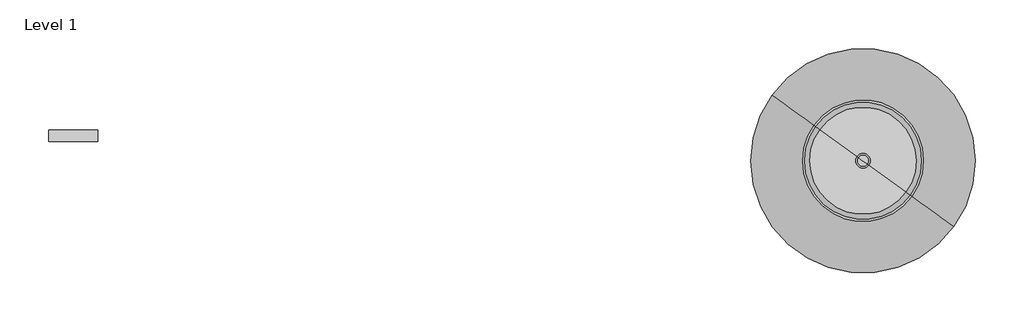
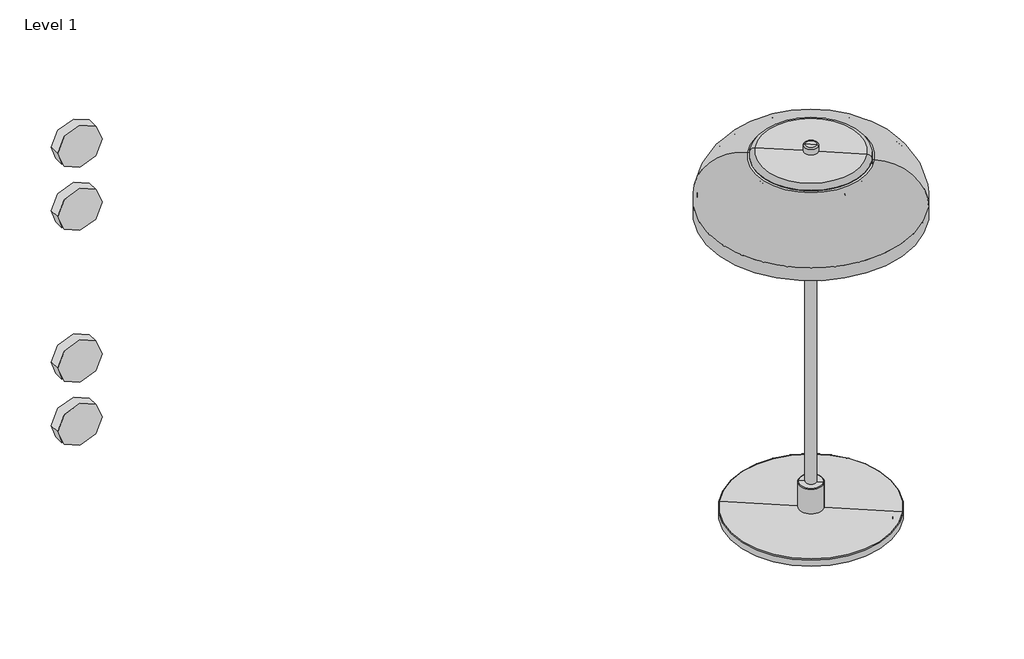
# One storey: 4 proxies, 1 light fixture.
"""IFC4 building model written with IfcOpenShell, lengths in millimetres."""

from ifc_helpers import new_model, si_unit, origin, place, context, project, spatial, transform, mapped, element, save
from components import materialmodel_materialmodel_d9ff14ed, light_fixture_5867d3f8

model = new_model("IFC4")

# Units and contexts
model_context = context("Model", 3, world=origin())
ifc_project = project(units=[si_unit("LENGTHUNIT", "METRE", prefix="MILLI")], contexts=[model_context])

# Site, building, storey
site = spatial("IfcSite", under=ifc_project)
building = spatial("IfcBuilding", under=site)
storey = spatial("IfcBuildingStorey", under=building, Name="Level 1", Elevation=0.0)

# Proxies
placement = place(None, origin())
materialmodel_materialmodel_shape = materialmodel_materialmodel_d9ff14ed(model_context)
element("IfcBuildingElementProxy", 1, Name="MaterialModel : MaterialModel", ObjectType="MaterialModel : MaterialModel", at=placement, inside=storey, context=model_context, shape_type="MappedRepresentation", body=[
    mapped(materialmodel_materialmodel_shape, transform((-14181.8938273, 5257.5863071, 552.2099026), x_axis=(1.0, 0.0, 0.0), y_axis=(0.0, 1.0, 0.0), z_axis=(0.0, 0.0, 1.0))),
])
element("IfcBuildingElementProxy", 2, Name="MaterialModel : MaterialModel", ObjectType="MaterialModel : MaterialModel", at=placement, inside=storey, context=model_context, shape_type="MappedRepresentation", body=[
    mapped(materialmodel_materialmodel_shape, transform((-14181.8938273, 5257.5863071, 477.2099026), x_axis=(1.0, 0.0, 0.0), y_axis=(0.0, 1.0, 0.0), z_axis=(0.0, 0.0, 1.0))),
])
element("IfcBuildingElementProxy", 3, Name="MaterialModel : MaterialModel", ObjectType="MaterialModel : MaterialModel", at=placement, inside=storey, context=model_context, shape_type="MappedRepresentation", body=[
    mapped(materialmodel_materialmodel_shape, transform((-14181.8938273, 5257.5863071, 807.2099026), x_axis=(1.0, 0.0, 0.0), y_axis=(0.0, 1.0, 0.0), z_axis=(0.0, 0.0, 1.0))),
])
element("IfcBuildingElementProxy", 4, Name="MaterialModel : MaterialModel", ObjectType="MaterialModel : MaterialModel", at=placement, inside=storey, context=model_context, shape_type="MappedRepresentation", body=[
    mapped(materialmodel_materialmodel_shape, transform((-14181.8938273, 5257.5863071, 732.2099026), x_axis=(1.0, 0.0, 0.0), y_axis=(0.0, 1.0, 0.0), z_axis=(0.0, 0.0, 1.0))),
])

# Light fixture
light_fixture_shape = light_fixture_5867d3f8(model_context)
element("IfcLightFixture", 5, ObjectType="Nuura - Blossi - Table : Nuura - Blossi - Table", at=placement, inside=storey, context=model_context, shape_type="MappedRepresentation", body=[
    mapped(light_fixture_shape, transform((-13372.5207912, 5226.0069548, 173.2082233), x_axis=(0.8098828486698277, -0.586591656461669, 0.0), y_axis=(0.586591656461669, 0.8098828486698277, 0.0), z_axis=(0.0, 0.0, 1.0))),
])

save(model, "model.ifc")
